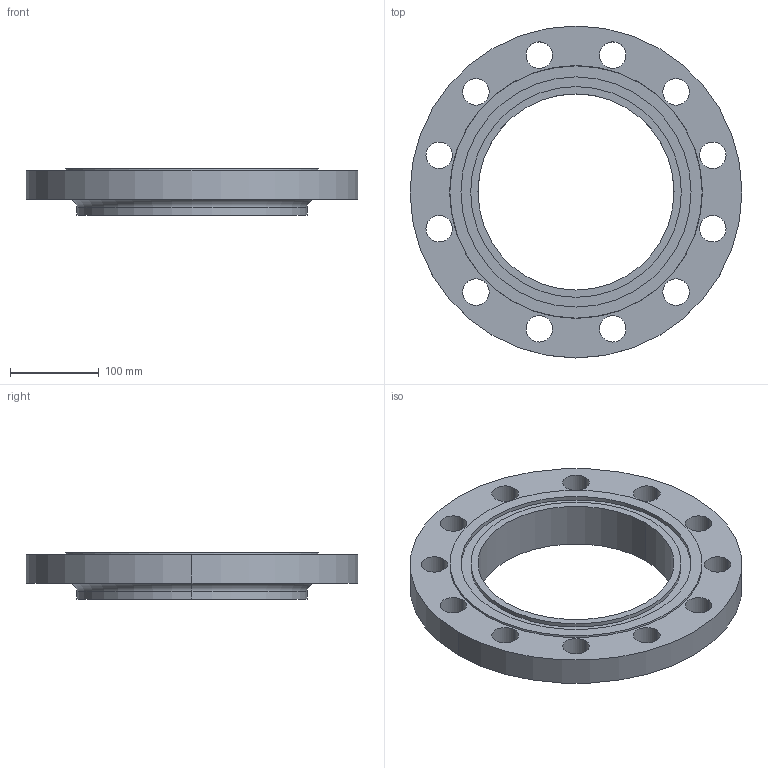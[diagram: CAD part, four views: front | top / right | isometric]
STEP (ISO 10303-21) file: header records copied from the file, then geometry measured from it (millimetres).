
FILE_DESCRIPTION (( 'STEP AP214' ), '1' );
FILE_NAME ('PN40 DN200 Type 12 - Type D Face.STEP', '2019-01-05T02:15:04', ( '' ), ( '' ), 'SwSTEP 2.0', 'SolidWorks 2019', '' );
FILE_SCHEMA (( 'AUTOMOTIVE_DESIGN' ));
Length unit declared in the file: millimetre
Products named in the file (1): PN40 DN200 Type 12 - Type D Face
Bounding box: 375 x 375 x 52 mm (x, y, z)
Volume: 2321806.2 mm3; surface area: 256723 mm2
Topology: 1 solids, 1 shells, 44 faces, 112 edges, 74 vertices
Faces by surface type: cylinder 34, plane 6, torus 2, cone 2
Entity records: 1462 total; most frequent: DIRECTION 278, CARTESIAN_POINT 231, ORIENTED_EDGE 224, AXIS2_PLACEMENT_3D 121, EDGE_CURVE 112, CIRCLE 76, VERTEX_POINT 74, EDGE_LOOP 74
